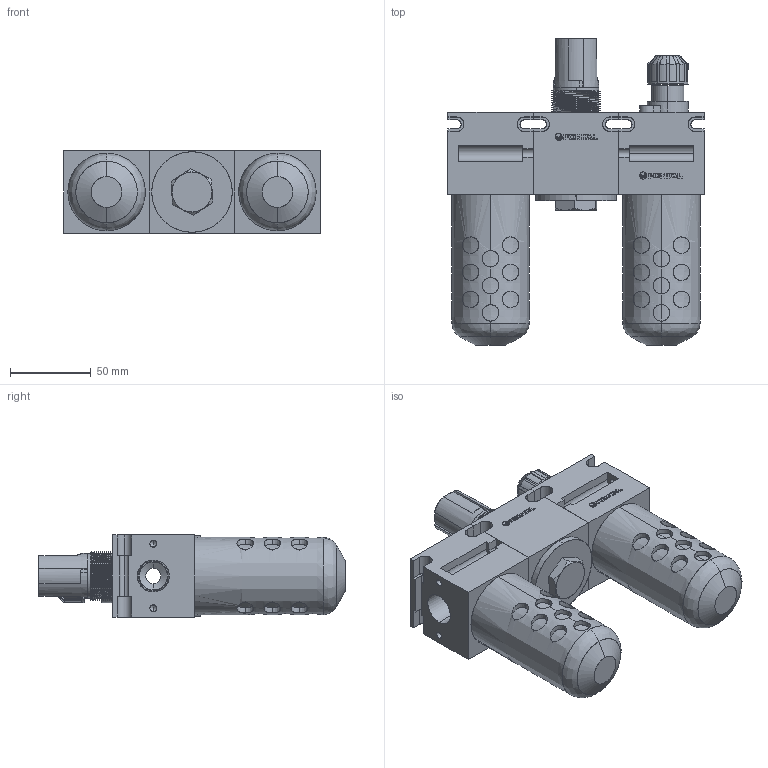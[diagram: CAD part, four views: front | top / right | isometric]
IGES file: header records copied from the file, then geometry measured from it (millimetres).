
Start section: SolidWorks IGES file using analytic representation for surfaces
Global section: file name: C:\Users\Toshiba\Desktop\C55##-04#Y##.IGS; native system: SolidWorks 2014; preprocessor: SolidWorks 2014; author: Toshiba; date: 160203.163213; units: millimetre
Bounding box: 159 x 190 x 51.25 mm (x, y, z)
Surface area: 121643.1 mm2 (no closed solid volume)
Topology: 0 solids, 0 shells, 837 faces, 12713 edges, 12705 vertices
Faces by surface type: bspline 478, revolution 359
